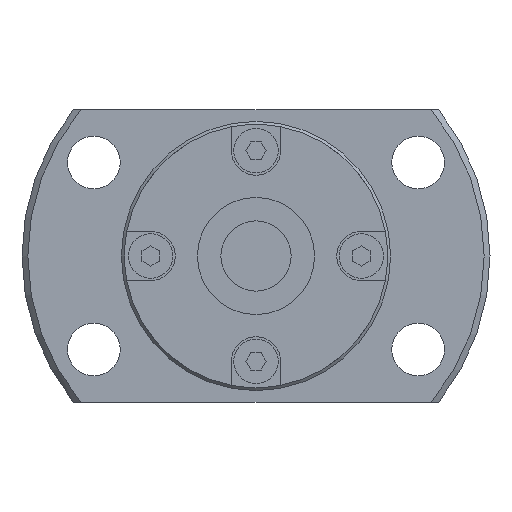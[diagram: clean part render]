
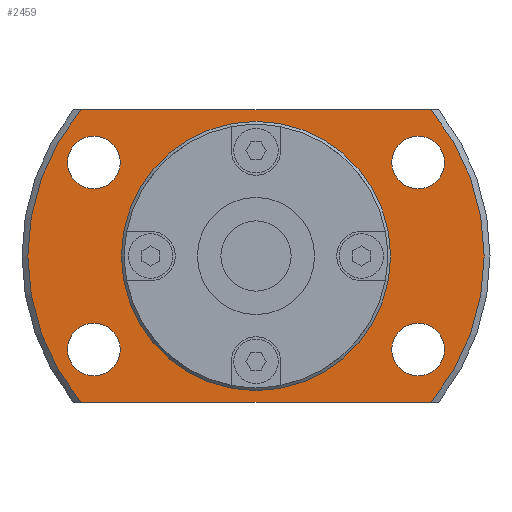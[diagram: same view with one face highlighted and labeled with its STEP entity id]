
A CAD part, left-side view. The second image highlights one B-rep face of the part: STEP entity #2459.
In plain terms, the highlighted planar face has unit normal (-1, 0, 0).
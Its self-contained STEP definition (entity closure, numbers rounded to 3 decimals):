
#136=LINE('',#3857,#362);
#137=LINE('',#3861,#363);
#362=VECTOR('',#3099,1000.);
#363=VECTOR('',#3102,1000.);
#684=ORIENTED_EDGE('',*,*,#1306,.F.);
#685=ORIENTED_EDGE('',*,*,#1307,.F.);
#686=ORIENTED_EDGE('',*,*,#1308,.F.);
#687=ORIENTED_EDGE('',*,*,#1309,.F.);
#688=ORIENTED_EDGE('',*,*,#1292,.F.);
#689=ORIENTED_EDGE('',*,*,#1310,.T.);
#690=ORIENTED_EDGE('',*,*,#1311,.F.);
#691=ORIENTED_EDGE('',*,*,#1312,.T.);
#692=ORIENTED_EDGE('',*,*,#1305,.T.);
#1292=EDGE_CURVE('',#1614,#1615,#1811,.T.);
#1305=EDGE_CURVE('',#1626,#1626,#1819,.T.);
#1306=EDGE_CURVE('',#1627,#1627,#1820,.F.);
#1307=EDGE_CURVE('',#1628,#1628,#1821,.F.);
#1308=EDGE_CURVE('',#1629,#1629,#1822,.F.);
#1309=EDGE_CURVE('',#1630,#1630,#1823,.F.);
#1310=EDGE_CURVE('',#1614,#1631,#136,.T.);
#1311=EDGE_CURVE('',#1632,#1631,#1824,.T.);
#1312=EDGE_CURVE('',#1632,#1615,#137,.T.);
#1614=VERTEX_POINT('',#3805);
#1615=VERTEX_POINT('',#3807);
#1626=VERTEX_POINT('',#3847);
#1627=VERTEX_POINT('',#3850);
#1628=VERTEX_POINT('',#3852);
#1629=VERTEX_POINT('',#3854);
#1630=VERTEX_POINT('',#3856);
#1631=VERTEX_POINT('',#3858);
#1632=VERTEX_POINT('',#3860);
#1811=CIRCLE('',#2675,19.5);
#1819=CIRCLE('',#2690,11.25);
#1820=CIRCLE('',#2692,2.25);
#1821=CIRCLE('',#2693,2.25);
#1822=CIRCLE('',#2694,2.25);
#1823=CIRCLE('',#2695,2.25);
#1824=CIRCLE('',#2696,19.5);
#1933=EDGE_LOOP('',(#684));
#1934=EDGE_LOOP('',(#685));
#1935=EDGE_LOOP('',(#686));
#1936=EDGE_LOOP('',(#687));
#1937=EDGE_LOOP('',(#688,#689,#690,#691));
#1938=EDGE_LOOP('',(#692));
#2155=FACE_BOUND('',#1933,.T.);
#2156=FACE_BOUND('',#1934,.T.);
#2157=FACE_BOUND('',#1935,.T.);
#2158=FACE_BOUND('',#1936,.T.);
#2159=FACE_BOUND('',#1937,.T.);
#2160=FACE_BOUND('',#1938,.T.);
#2331=PLANE('',#2691);
#2459=ADVANCED_FACE('',(#2155,#2156,#2157,#2158,#2159,#2160),#2331,.F.);
#2675=AXIS2_PLACEMENT_3D('',#3806,#3055,#3056);
#2690=AXIS2_PLACEMENT_3D('',#3846,#3087,#3088);
#2691=AXIS2_PLACEMENT_3D('',#3848,#3089,#3090);
#2692=AXIS2_PLACEMENT_3D('',#3849,#3091,#3092);
#2693=AXIS2_PLACEMENT_3D('',#3851,#3093,#3094);
#2694=AXIS2_PLACEMENT_3D('',#3853,#3095,#3096);
#2695=AXIS2_PLACEMENT_3D('',#3855,#3097,#3098);
#2696=AXIS2_PLACEMENT_3D('',#3859,#3100,#3101);
#3055=DIRECTION('',(1.,0.,0.));
#3056=DIRECTION('',(0.,0.,-1.));
#3087=DIRECTION('',(1.,0.,0.));
#3088=DIRECTION('',(0.,0.,-1.));
#3089=DIRECTION('',(1.,0.,0.));
#3090=DIRECTION('',(0.,0.,-1.));
#3091=DIRECTION('',(1.,0.,0.));
#3092=DIRECTION('',(0.,0.,-1.));
#3093=DIRECTION('',(1.,0.,0.));
#3094=DIRECTION('',(0.,0.,-1.));
#3095=DIRECTION('',(1.,0.,0.));
#3096=DIRECTION('',(0.,0.,-1.));
#3097=DIRECTION('',(1.,0.,0.));
#3098=DIRECTION('',(0.,0.,-1.));
#3099=DIRECTION('',(0.,-1.,0.));
#3100=DIRECTION('',(1.,0.,0.));
#3101=DIRECTION('',(0.,0.,-1.));
#3102=DIRECTION('',(0.,1.,0.));
#3805=CARTESIAN_POINT('',(13.,14.967,-12.5));
#3806=CARTESIAN_POINT('',(13.,0.,0.));
#3807=CARTESIAN_POINT('',(13.,14.967,12.5));
#3846=CARTESIAN_POINT('',(13.,0.,0.));
#3847=CARTESIAN_POINT('',(13.,0.,-11.25));
#3848=CARTESIAN_POINT('',(13.,11.25,0.));
#3849=CARTESIAN_POINT('',(13.,-13.856,-8.));
#3850=CARTESIAN_POINT('',(13.,-13.856,-10.25));
#3851=CARTESIAN_POINT('',(13.,-13.856,8.));
#3852=CARTESIAN_POINT('',(13.,-13.856,5.75));
#3853=CARTESIAN_POINT('',(13.,13.856,-8.));
#3854=CARTESIAN_POINT('',(13.,13.856,-10.25));
#3855=CARTESIAN_POINT('',(13.,13.856,8.));
#3856=CARTESIAN_POINT('',(13.,13.856,5.75));
#3857=CARTESIAN_POINT('',(13.,11.25,-12.5));
#3858=CARTESIAN_POINT('',(13.,-14.967,-12.5));
#3859=CARTESIAN_POINT('',(13.,0.,0.));
#3860=CARTESIAN_POINT('',(13.,-14.967,12.5));
#3861=CARTESIAN_POINT('',(13.,11.25,12.5));
